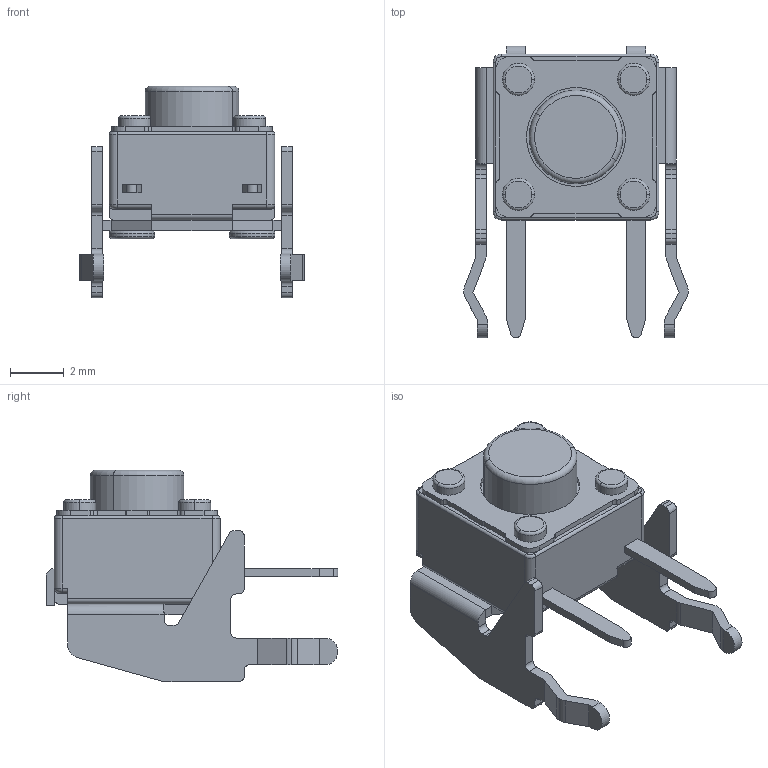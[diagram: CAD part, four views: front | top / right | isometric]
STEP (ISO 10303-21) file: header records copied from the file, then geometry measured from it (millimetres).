
FILE_DESCRIPTION (( 'STEP AP214' ), '1' );
FILE_NAME ('SKHHUF.STEP', '2014-03-28T06:13:51', ( 'user' ), ( 'Hewlett-Packard Company' ), 'SwSTEP 2.0', 'SolidWorks 2012', '' );
FILE_SCHEMA (( 'AUTOMOTIVE_DESIGN' ));
Length unit declared in the file: millimetre
Products named in the file (1): SKHHUF
Bounding box: 8.4 x 10.9 x 7.9 mm (x, y, z)
Volume: 175.9 mm3; surface area: 365.6 mm2
Topology: 1 solids, 5 shells, 292 faces, 756 edges, 482 vertices
Faces by surface type: plane 144, cylinder 122, torus 26
Entity records: 11901 total; most frequent: DIRECTION 1626, CARTESIAN_POINT 1537, ORIENTED_EDGE 1512, EDGE_CURVE 756, AXIS2_PLACEMENT_3D 579, VERTEX_POINT 482, LINE 468, VECTOR 468
